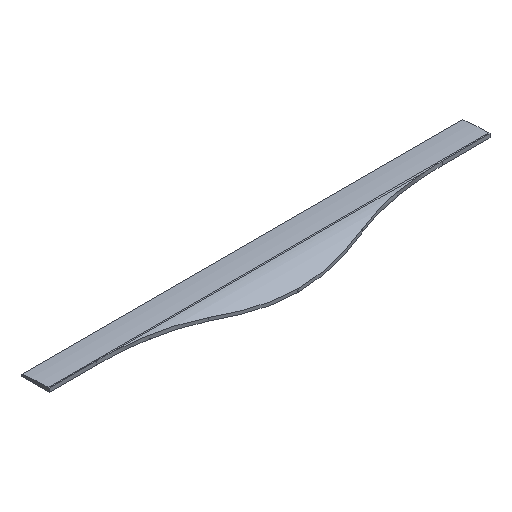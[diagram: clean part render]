
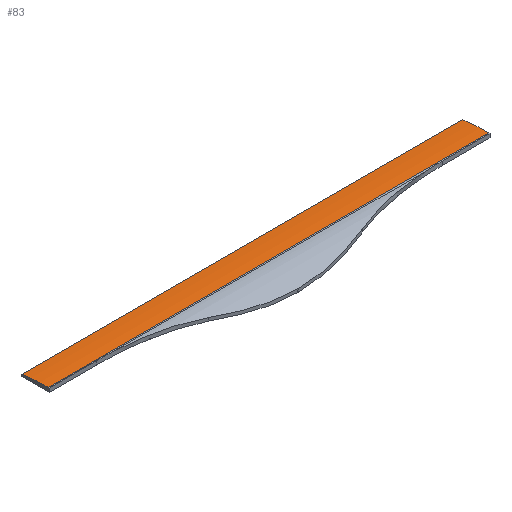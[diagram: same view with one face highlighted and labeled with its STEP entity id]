
A CAD part, isometric view. The second image highlights one B-rep face of the part: STEP entity #83.
In plain terms, the highlighted cylindrical face has radius 176.85 mm (diameter 353.7 mm), a partial arc.
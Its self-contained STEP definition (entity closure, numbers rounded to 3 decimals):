
#83 = ADVANCED_FACE( '', ( #180 ), #181, .T. );
#180 = FACE_OUTER_BOUND( '', #291, .T. );
#181 = CYLINDRICAL_SURFACE( '', #292, 176.85 );
#291 = EDGE_LOOP( '', ( #403, #404, #405, #406 ) );
#292 = AXIS2_PLACEMENT_3D( '', #407, #408, #409 );
#403 = ORIENTED_EDGE( '', *, *, #689, .T. );
#404 = ORIENTED_EDGE( '', *, *, #700, .F. );
#405 = ORIENTED_EDGE( '', *, *, #701, .F. );
#406 = ORIENTED_EDGE( '', *, *, #702, .T. );
#407 = CARTESIAN_POINT( '', ( 172.5, -11., -173.85 ) );
#408 = DIRECTION( '', ( 1., 0., 0. ) );
#409 = DIRECTION( '', ( 0., 0., 1. ) );
#689 = EDGE_CURVE( '', #811, #809, #812, .T. );
#700 = EDGE_CURVE( '', #830, #809, #831, .T. );
#701 = EDGE_CURVE( '', #832, #830, #833, .T. );
#702 = EDGE_CURVE( '', #832, #811, #834, .T. );
#809 = VERTEX_POINT( '', #987 );
#811 = VERTEX_POINT( '', #990 );
#812 = CIRCLE( '', #991, 176.85 );
#830 = VERTEX_POINT( '', #1047 );
#831 = LINE( '', #1048, #1049 );
#832 = VERTEX_POINT( '', #1050 );
#833 = CIRCLE( '', #1051, 176.85 );
#834 = LINE( '', #1052, #1053 );
#987 = CARTESIAN_POINT( '', ( -172.5, -11., 3. ) );
#990 = CARTESIAN_POINT( '', ( -172.5, 9.5, 1.808 ) );
#991 = AXIS2_PLACEMENT_3D( '', #1306, #1307, #1308 );
#1047 = CARTESIAN_POINT( '', ( 172.5, -11., 3. ) );
#1048 = CARTESIAN_POINT( '', ( 172.5, -11., 3. ) );
#1049 = VECTOR( '', #1313, 1000. );
#1050 = CARTESIAN_POINT( '', ( 172.5, 9.5, 1.808 ) );
#1051 = AXIS2_PLACEMENT_3D( '', #1314, #1315, #1316 );
#1052 = CARTESIAN_POINT( '', ( 172.5, 9.5, 1.808 ) );
#1053 = VECTOR( '', #1317, 1000. );
#1306 = CARTESIAN_POINT( '', ( -172.5, -11., -173.85 ) );
#1307 = DIRECTION( '', ( 1., 0., 0. ) );
#1308 = DIRECTION( '', ( 0., 0., -1. ) );
#1313 = DIRECTION( '', ( -1., 0., 0. ) );
#1314 = CARTESIAN_POINT( '', ( 172.5, -11., -173.85 ) );
#1315 = DIRECTION( '', ( 1., 0., 0. ) );
#1316 = DIRECTION( '', ( 0., 0., -1. ) );
#1317 = DIRECTION( '', ( -1., 0., 0. ) );
